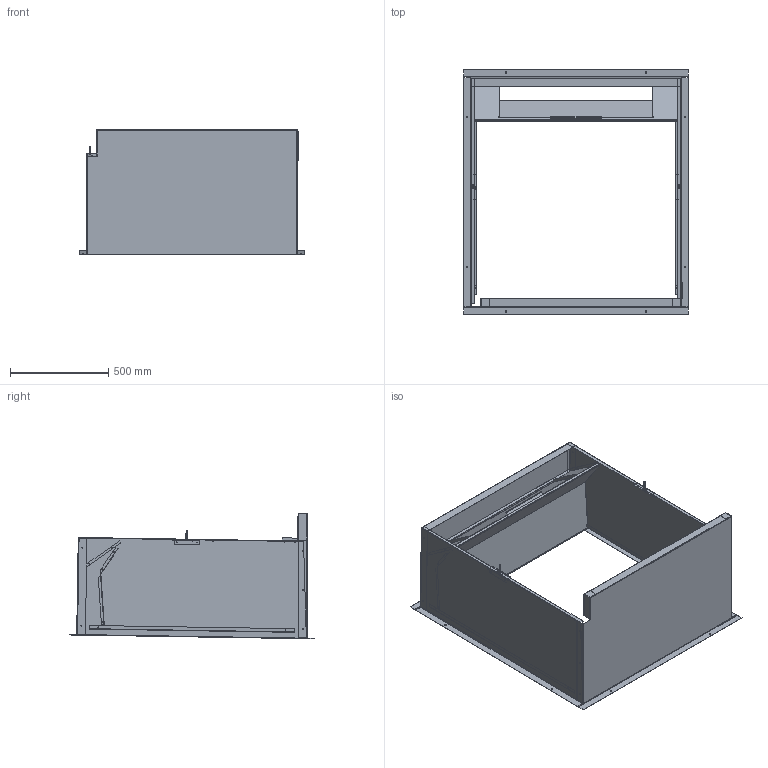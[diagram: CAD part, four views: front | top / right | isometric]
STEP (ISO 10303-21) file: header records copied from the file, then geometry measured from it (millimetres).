
FILE_DESCRIPTION (( 'STEP AP203' ), '1' );
FILE_NAME ('QWS48A-19.STEP', '2014-03-18T11:08:45', ( 'generic' ), ( 'Hewlett-Packard Company' ), 'SwSTEP 2.0', 'SolidWorks 2014', '' );
FILE_SCHEMA (( 'CONFIG_CONTROL_DESIGN' ));
Length unit declared in the file: inch
Products named in the file (11): 110-105; 104-988; 110-103; QWS48A-19; 104-1060; 110-102; 1012-036; 136-450; 110-104; 130-128; 120-381
Assembly tree (13 placements, depth 2):
  QWS48A-19
    110-103
    110-102
    104-1060  x2
    1012-036  x2
    136-450
    110-104
    130-128
    120-381
    110-105
    104-988  x2
Bounding box: 1140.39 x 1244.21 x 637.13 mm (x, y, z)
Volume: 4976267.3 mm3; surface area: 7145592.6 mm2
Topology: 13 solids, 13 shells, 994 faces, 2328 edges, 1342 vertices
Faces by surface type: plane 397, cylinder 329, cone 236, bspline 32
Entity records: 26147 total; most frequent: CARTESIAN_POINT 5698, DIRECTION 4070, ORIENTED_EDGE 3890, EDGE_CURVE 1945, AXIS2_PLACEMENT_3D 1467, LINE 1136, VECTOR 1136, VERTEX_POINT 1133
